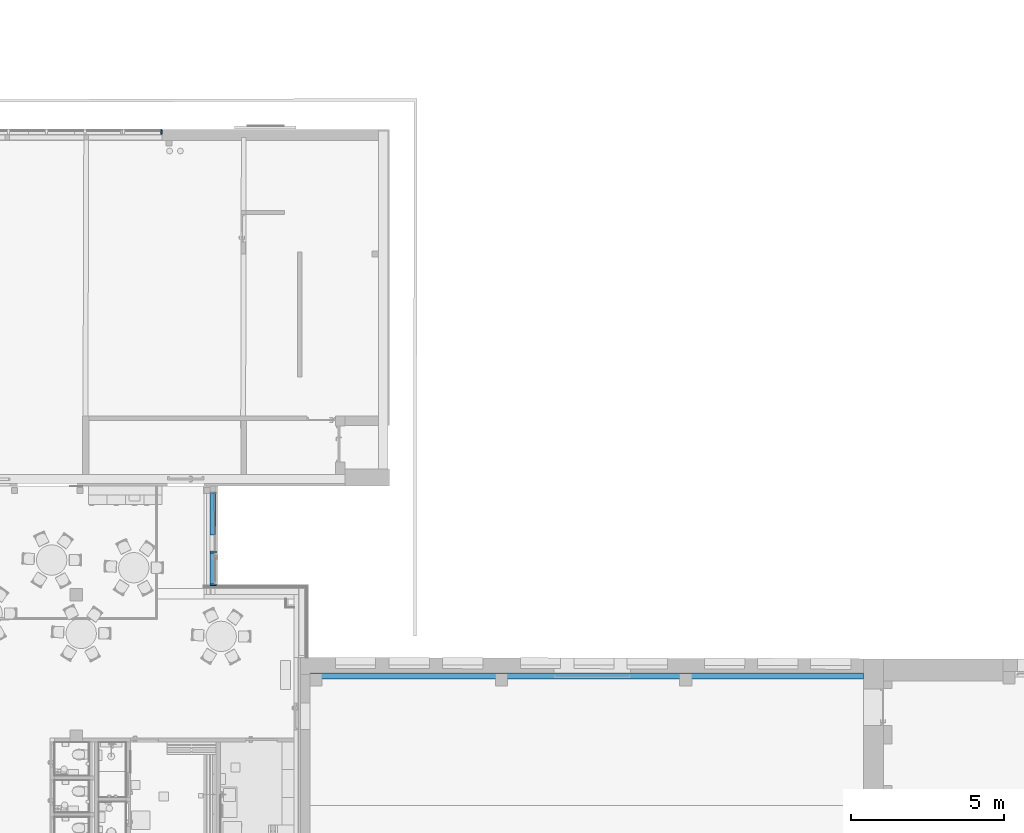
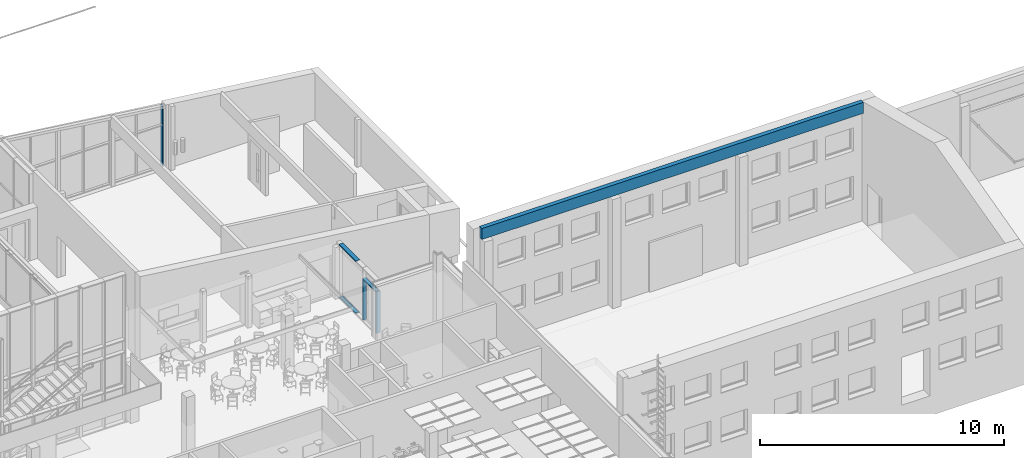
# One storey, part 63 of 301: 7 members, 1 beam, 2 elements without a shape of their own.
"""IFC2X3 building model written with IfcOpenShell, lengths in millimetres."""

from ifc_helpers import new_model, entity, si_unit, converted_unit, derived_unit, money_unit, direction, frame, origin_with_axes, place, context, subcontext, project, spatial, faceted_brep, material, type_object, element, aggregate, save


model = new_model("IFC2X3")

# Units and contexts
model_context = context("Model", 3, precision=0.01, world=origin_with_axes(), true_north=direction((0.0, 1.0)))
body_context = subcontext(model_context, "Body", "Model", "MODEL_VIEW")
ifc_project = project(units=[si_unit("LENGTHUNIT", "METRE", prefix="MILLI"), si_unit("AREAUNIT", "SQUARE_METRE"), si_unit("VOLUMEUNIT", "CUBIC_METRE"), converted_unit("PLANEANGLEUNIT", "DEGREE", entity("IfcPlaneAngleMeasure", 0.0174532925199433), si_unit("PLANEANGLEUNIT", "RADIAN"), dimensions=[0, 0, 0, 0, 0, 0, 0]), money_unit("EUR"), converted_unit("TIMEUNIT", "Year", entity("IfcTimeMeasure", 31557600.0), si_unit("TIMEUNIT", "SECOND"), dimensions=[0, 0, 1, 0, 0, 0, 0]), si_unit("MASSUNIT", "GRAM", prefix="KILO"), si_unit("THERMODYNAMICTEMPERATUREUNIT", "DEGREE_CELSIUS"), si_unit("LUMINOUSINTENSITYUNIT", "LUMEN"), si_unit("ENERGYUNIT", "JOULE", prefix="MEGA"), derived_unit("THERMALCONDUCTANCEUNIT", [(si_unit("POWERUNIT", "WATT"), 1), (si_unit("LENGTHUNIT", "METRE"), -1), (si_unit("THERMODYNAMICTEMPERATUREUNIT", "KELVIN"), -1)]), derived_unit("SPECIFICHEATCAPACITYUNIT", [(si_unit("ENERGYUNIT", "JOULE"), 1), (si_unit("MASSUNIT", "GRAM", prefix="KILO"), -1), (si_unit("THERMODYNAMICTEMPERATUREUNIT", "KELVIN"), -1)]), derived_unit("MASSDENSITYUNIT", [(si_unit("MASSUNIT", "GRAM", prefix="KILO"), 1), (si_unit("VOLUMEUNIT", "CUBIC_METRE"), -1)])], contexts=[model_context])

# Site, building, storey
site_placement = place(None, frame((0.0, 0.0, 8650.0), z_axis=(0.0, 0.0, 1.0), x_axis=(1.0, 0.0, 0.0)))
site = spatial("IfcSite", under=ifc_project, at=site_placement, Name="43301:001:0844", CompositionType="ELEMENT")
building_placement = place(site_placement, origin_with_axes())
building = spatial("IfcBuilding", under=site, at=building_placement, Name="Kuressaare Ametikooli tuulikute mehaanikute õppekorpus", CompositionType="ELEMENT")
storey_placement = place(building_placement, origin_with_axes())
storey = spatial("IfcBuildingStorey", under=building, at=storey_placement, Name="1.korrus", CompositionType="ELEMENT", Elevation=0.0)

# Curtain wall, members
curtain_wall_type = type_object("IfcCurtainWallType", Name="Curtain Wall Type", PredefinedType="NOTDEFINED")
curtain_wall_1_placement = place(storey_placement, frame((130440.0312746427, 29344.34887802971, 34.99990943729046), z_axis=(0.0, 0.0, 1.0), x_axis=(1.0, 0.0, 0.0)))
curtain_wall_1 = element("IfcCurtainWall", 1, at=curtain_wall_1_placement, inside=storey, type_object=curtain_wall_type, Name="KF-2")
ifc_material_1 = material(Name="Aluminium")
member_type_1 = type_object("IfcMemberType", Name="Boundary Frame 50 x 200", PredefinedType="NOTDEFINED")
member_1_placement = place(curtain_wall_1_placement, frame((-3.539112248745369, 2359.808358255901, 0.0), z_axis=(0.00149974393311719, -0.9999988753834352, 0.0), x_axis=(0.0, 0.0, 1.0)))
member_1 = element("IfcMember", 2, at=member_1_placement, type_object=member_type_1, material=ifc_material_1, context=body_context, shape_type="Brep", body=[
    faceted_brep([(5.000000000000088, 20.0000000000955, 1365.273130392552), (25.00000000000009, 20.0000000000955, 1365.273130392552), (25.00000000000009, 160.0000000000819, 1365.273130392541), (-24.9999999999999, 160.0000000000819, 1365.273130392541), (-24.99999999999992, -39.9999999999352, 1365.273130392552), (25.00000000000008, -39.9999999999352, 1365.273130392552), (25.00000000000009, -19.99999999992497, 1365.273130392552), (5.000000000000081, -19.99999999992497, 1365.273130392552), (5.000000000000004, 20.00000000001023, 4.999999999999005), (25.0, 20.00000000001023, 24.99999999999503), (25.00000000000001, 159.9999999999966, 24.99999999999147), (-24.99999999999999, 159.9999999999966, -25.00000000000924), (-25.0, -39.99999999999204, -24.99999999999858), (24.99999999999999, -39.99999999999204, 25.00000000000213), (25.0, -20.00000000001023, 24.99999999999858), (4.999999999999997, -19.99999999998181, 5.000000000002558)], [[[0, 1, 2, 3, 4, 5, 6, 7]], [[0, 8, 9, 1]], [[9, 10, 2, 1]], [[2, 10, 11, 3]], [[3, 11, 12, 4]], [[4, 12, 13, 5]], [[6, 5, 13, 14]], [[14, 15, 7, 6]], [[7, 15, 8, 0]], [[8, 15, 14, 13, 12, 11, 10, 9]]]),
])
member_2_placement = place(curtain_wall_1_placement, frame((-1.491552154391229, 994.53676327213, 2610.000036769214), z_axis=(-0.00149974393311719, 0.9999988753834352, 0.0), x_axis=(0.0, 0.0, -1.0)))
member_2 = element("IfcMember", 3, at=member_2_placement, type_object=member_type_1, material=ifc_material_1, context=body_context, shape_type="Brep", body=[
    faceted_brep([(4.999999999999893, 19.99999999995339, 1360.27313039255), (24.99999999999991, 19.99999999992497, 1340.273130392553), (24.99999999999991, 159.9999999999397, 1340.273130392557), (-24.99999999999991, 159.9999999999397, 1390.273130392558), (-24.99999999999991, -40.00000000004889, 1390.273130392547), (24.99999999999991, -40.00000000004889, 1340.273130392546), (24.99999999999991, -20.00000000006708, 1340.27313039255), (4.999999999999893, -20.00000000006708, 1360.273130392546), (4.999999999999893, 20.00000000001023, 0.0), (24.99999999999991, 20.00000000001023, 0.0), (24.99999999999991, 160.000000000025, 0.0), (-24.99999999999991, 160.000000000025, 0.0), (-24.99999999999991, -39.99999999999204, 0.0), (24.99999999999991, -39.99999999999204, 0.0), (24.99999999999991, -19.99999999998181, 0.0), (4.999999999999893, -19.99999999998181, 0.0)], [[[0, 1, 2, 3, 4, 5, 6, 7]], [[0, 8, 9, 1]], [[9, 10, 2, 1]], [[10, 11, 3, 2]], [[11, 12, 4, 3]], [[12, 13, 5, 4]], [[6, 5, 13, 14]], [[14, 15, 7, 6]], [[7, 15, 8, 0]], [[8, 15, 14, 13, 12, 11, 10, 9]]]),
])
member_3_placement = place(curtain_wall_1_placement, frame((0.9667074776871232, -644.5809642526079, 0.0), z_axis=(0.0, -2.473938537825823e-10, 1.0), x_axis=(-0.001499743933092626, 0.9999988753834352, 2.473941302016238e-10)))
member_3 = element("IfcMember", 4, at=member_3_placement, type_object=member_type_1, material=ifc_material_1, context=body_context, shape_type="Brep", body=[
    faceted_brep([(5.000000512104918, 19.99999999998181, 2070.000044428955), (25.00000050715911, 19.99999999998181, 2050.00004441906), (25.00000050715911, 159.9999999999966, 2050.00004441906), (5.133422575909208e-07, 159.9999999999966, 2075.000044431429), (5.133458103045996e-07, -40.00000000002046, 2075.000044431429), (25.00000050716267, -40.00000000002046, 2050.00004441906), (25.00000050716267, -20.00000000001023, 2050.00004441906), (5.000000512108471, -19.99999999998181, 2070.000044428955), (4.999999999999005, 19.99999999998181, -1.236948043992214e-09), (24.99999999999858, 19.99999999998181, -6.184830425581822e-09), (24.99999999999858, 159.9999999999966, -6.184656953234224e-09), (-24.99999948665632, 159.9999999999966, 2075.000044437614), (-24.99999999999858, 159.9999999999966, 6.185045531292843e-09), (-24.99999948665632, -40.00000000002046, 2075.000044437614), (24.99999999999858, -40.00000000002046, -6.184899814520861e-09), (-24.99999999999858, -40.00000000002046, 6.18480960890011e-09), (25.00000000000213, -20.00000000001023, -6.184878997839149e-09), (5.000000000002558, -19.99999999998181, -1.236996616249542e-09)], [[[0, 1, 2, 3, 4, 5, 6, 7]], [[0, 8, 9, 1]], [[9, 10, 2, 1]], [[11, 3, 2, 10, 12]], [[4, 3, 11, 13]], [[14, 5, 4, 13, 15]], [[6, 5, 14, 16]], [[16, 17, 7, 6]], [[7, 17, 8, 0]], [[8, 17, 16, 14, 15, 12, 10, 9]], [[11, 12, 15, 13]]]),
])
member_4_placement = place(curtain_wall_1_placement, frame((0.9667074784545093, -644.5809647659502, 2075.000044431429), z_axis=(-0.001499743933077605, 0.9999988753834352, 0.0), x_axis=(0.0, 0.0, -1.0)))
member_4 = element("IfcMember", 5, at=member_4_placement, type_object=member_type_1, material=ifc_material_1, context=body_context, shape_type="Brep", body=[
    faceted_brep([(-4.999999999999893, 19.99999999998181, 1099.302816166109), (-4.999999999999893, -20.00000000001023, 1099.302816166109), (-24.99999999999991, -20.00000000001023, 1099.302816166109), (-24.99999999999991, -40.00000000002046, 1099.302816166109), (24.99999999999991, -40.00000000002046, 1099.302816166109), (24.99999999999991, -20.00000000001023, 1099.302816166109), (4.999999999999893, -20.00000000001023, 1099.302816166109), (4.999999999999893, 19.99999999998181, 1099.302816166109), (24.99999999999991, 19.99999999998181, 1099.302816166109), (24.99999999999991, 159.9999999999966, 1099.302816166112), (-24.99999999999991, 159.9999999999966, 1099.302816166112), (-24.99999999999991, 19.99999999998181, 1099.302816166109), (-4.999999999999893, 19.99999999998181, 4.999999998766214), (-4.999999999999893, -19.99999999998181, 4.999999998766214), (-24.99999999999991, -20.00000000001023, 24.99999999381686), (-24.99999999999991, -40.00000000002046, 24.9999999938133), (24.99999999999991, -39.99999999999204, 25.00000000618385), (0.0, -39.99999999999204, 0.0), (24.99999999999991, -19.99999999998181, 25.00000000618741), (4.999999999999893, -19.99999999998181, 5.000000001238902), (4.999999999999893, 19.99999999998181, 5.000000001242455), (24.99999999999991, 19.99999999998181, 25.00000000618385), (24.99999999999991, 159.9999999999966, 25.00000000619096), (-24.99999999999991, 159.9999999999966, 24.99999999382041), (0.0, 159.9999999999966, 0.0), (-24.99999999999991, 19.99999999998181, 24.9999999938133)], [[[0, 1, 2, 3, 4, 5, 6, 7, 8, 9, 10, 11]], [[0, 12, 13, 1]], [[1, 13, 14, 2]], [[14, 15, 3, 2]], [[16, 4, 3, 15, 17]], [[18, 5, 4, 16]], [[5, 18, 19, 6]], [[7, 6, 19, 20]], [[8, 7, 20, 21]], [[8, 21, 22, 9]], [[23, 10, 9, 22, 24]], [[11, 10, 23, 25]], [[11, 25, 12, 0]], [[13, 12, 25, 23, 24, 17, 15, 14]], [[16, 17, 24, 22, 21, 20, 19, 18]]]),
])
member_type_2 = type_object("IfcMemberType", Name="Mullion Frame 50 x 200", PredefinedType="NOTDEFINED")
member_5_placement = place(curtain_wall_1_placement, frame((-0.6444716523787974, 429.7206432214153, 0.0), z_axis=(0.0, 0.0, 1.0), x_axis=(-0.001499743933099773, 0.9999988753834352, 0.0)))
member_5 = element("IfcMember", 6, at=member_5_placement, type_object=member_type_2, material=ifc_material_1, context=body_context, shape_type="Brep", body=[
    faceted_brep([(-5.000000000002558, 19.99999999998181, 2050.00004443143), (-4.999999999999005, -20.00000000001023, 2050.00004443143), (-24.99999999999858, -20.00000000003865, 2050.00004443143), (-24.99999999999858, -40.00000000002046, 2050.00004443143), (24.99999999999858, -40.00000000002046, 2050.00004443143), (24.99999999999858, -20.00000000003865, 2050.00004443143), (5.000000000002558, -20.00000000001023, 2050.00004443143), (4.999999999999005, 20.00000000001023, 2050.00004443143), (24.99999999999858, 20.00000000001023, 2050.00004443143), (24.99999999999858, 159.9999999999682, 2050.00004443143), (-24.99999999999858, 159.9999999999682, 2050.00004443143), (-25.00000000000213, 20.00000000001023, 2050.00004443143), (-5.000000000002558, 19.99999999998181, 24.99999999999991), (-4.999999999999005, -20.00000000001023, 24.99999999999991), (-24.99999999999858, -20.00000000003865, 24.99999999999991), (-24.99999999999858, -40.00000000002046, 24.99999999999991), (24.99999999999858, -40.00000000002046, 24.99999999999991), (24.99999999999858, -20.00000000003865, 24.99999999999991), (5.000000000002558, -20.00000000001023, 24.99999999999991), (4.999999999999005, 20.00000000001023, 24.99999999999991), (24.99999999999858, 20.00000000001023, 24.99999999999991), (24.99999999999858, 159.9999999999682, 24.99999999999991), (-24.99999999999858, 159.9999999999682, 24.99999999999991), (-25.00000000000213, 20.00000000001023, 24.99999999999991)], [[[0, 1, 2, 3, 4, 5, 6, 7, 8, 9, 10, 11]], [[0, 12, 13, 1]], [[1, 13, 14, 2]], [[14, 15, 3, 2]], [[4, 3, 15, 16]], [[17, 5, 4, 16]], [[5, 17, 18, 6]], [[7, 6, 18, 19]], [[8, 7, 19, 20]], [[8, 20, 21, 9]], [[10, 9, 21, 22]], [[11, 10, 22, 23]], [[11, 23, 12, 0]], [[13, 12, 23, 22, 21, 20, 19, 18, 17, 16, 15, 14]]]),
])
aggregate(curtain_wall_1, [member_1, member_2, member_3, member_4, member_5])

curtain_wall_2_placement = place(storey_placement, frame((123006.726034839, 43517.8284534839, -3.991420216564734e-05), z_axis=(0.0, 0.0, 1.0), x_axis=(1.0, 0.0, 0.0)))
curtain_wall_2 = element("IfcCurtainWall", 7, at=curtain_wall_2_placement, inside=storey, type_object=curtain_wall_type, Name="KF-XX")
ifc_material_2 = material(Name="Metall - Alumiinium")
member_type_3 = type_object("IfcMemberType", Name="Boundary Frame 50 x 150", PredefinedType="NOTDEFINED")
member_6_placement = place(curtain_wall_2_placement, frame((5709.642149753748, 0.0, 3121.616442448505), z_axis=(-2.928159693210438e-08, 0.0, -0.9999999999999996), x_axis=(-0.9999999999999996, 0.0, 2.928159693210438e-08)))
member_6 = element("IfcMember", 8, at=member_6_placement, type_object=member_type_3, material=ifc_material_2, context=body_context, shape_type="Brep", body=[
    faceted_brep([(34.99997008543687, -9.99999999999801, 1021.6164042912), (34.99997008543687, 9.99999999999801, 1021.6164042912), (49.99997008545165, 9.99999999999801, 1021.616404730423), (49.99997008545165, 30.00000000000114, 1021.616404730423), (-2.991455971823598e-05, 30.00000000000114, 1021.616403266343), (-2.991455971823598e-05, 0.0, 1021.616403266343), (-2.991455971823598e-05, -119.9999999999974, 1021.616403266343), (49.99997008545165, -119.9999999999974, 1021.616404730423), (49.99997008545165, -9.99999999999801, 1021.616404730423), (34.99999909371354, -9.99999999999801, 30.9498730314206), (34.99999909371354, 9.99999999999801, 30.9498730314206), (49.99999870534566, 9.99999999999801, 44.2141043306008), (49.99999870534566, 30.00000000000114, 44.2141043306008), (0.0, 30.00000000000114, 0.0), (0.0, 0.0, 0.0), (0.0, -119.9999999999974, 0.0), (49.99999870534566, -119.9999999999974, 44.2141043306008), (49.99999870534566, -9.99999999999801, 44.2141043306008)], [[[0, 1, 2, 3, 4, 5, 6, 7, 8]], [[1, 0, 9, 10]], [[11, 2, 1, 10]], [[2, 11, 12, 3]], [[4, 3, 12, 13]], [[5, 4, 13, 14]], [[6, 5, 14, 15]], [[7, 6, 15, 16]], [[17, 8, 7, 16]], [[0, 8, 17, 9]], [[9, 17, 16, 15, 14, 13, 12, 11, 10]]]),
])
member_7_placement = place(curtain_wall_2_placement, frame((5709.642119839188, 0.0, 2100.000039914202), z_axis=(0.0, 0.0, -1.0), x_axis=(-1.0, 0.0, 0.0)))
member_7 = element("IfcMember", 9, at=member_7_placement, type_object=member_type_3, material=ifc_material_2, context=body_context, shape_type="Brep", body=[
    faceted_brep([(34.99999999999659, -9.99999999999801, 2065.000039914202), (34.99999999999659, 9.99999999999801, 2065.000039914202), (50.00000000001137, 9.99999999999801, 2050.000039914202), (50.00000000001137, 30.00000000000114, 2050.000039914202), (0.0, 30.00000000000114, 2100.000039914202), (0.0, 0.0, 2100.000039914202), (0.0, -119.9999999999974, 2100.000039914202), (50.00000000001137, -119.9999999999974, 2050.000039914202), (50.00000000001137, -9.99999999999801, 2050.000039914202), (34.99999999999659, -9.99999999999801, -7.320397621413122e-07), (34.99999999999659, 9.99999999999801, -7.320397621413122e-07), (50.00000000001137, 9.99999999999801, -7.320397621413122e-07), (50.00000000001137, 30.00000000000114, -7.320397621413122e-07), (0.0, 30.00000000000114, -7.320397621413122e-07), (0.0, 0.0, -7.320397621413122e-07), (0.0, -119.9999999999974, -7.320397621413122e-07), (50.00000000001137, -119.9999999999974, -7.320397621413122e-07), (50.00000000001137, -9.99999999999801, -7.320397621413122e-07)], [[[0, 1, 2, 3, 4, 5, 6, 7, 8]], [[1, 0, 9, 10]], [[11, 2, 1, 10]], [[2, 11, 12, 3]], [[13, 4, 3, 12]], [[14, 5, 4, 13]], [[15, 6, 5, 14]], [[16, 7, 6, 15]], [[17, 8, 7, 16]], [[0, 8, 17, 9]], [[9, 17, 16, 15, 14, 13, 12, 11, 10]]]),
])
aggregate(curtain_wall_2, [member_6, member_7])

# Beam
ifc_material_3 = material(Name="GENEERILINE - KONSTRUKTRIOON")
beam_type = type_object("IfcBeamType", Name="GENEERILINE - KONSTRUKTRIOON 200 x 550", PredefinedType="NOTDEFINED")
beam_placement = place(storey_placement, frame((133534.948321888, 25832.98866271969, 5450.0), z_axis=(0.0, 0.0, 1.0), x_axis=(0.0, -1.0, 0.0)))
element("IfcBeam", 10, at=beam_placement, inside=storey, type_object=beam_type, material=ifc_material_3, context=body_context, shape_type="Brep", body=[
    faceted_brep([(0.0, 0.0, 0.0), (0.0, 18058.67197840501, 0.0), (199.9999999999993, 18058.67197840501, 0.0), (199.9999999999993, 0.0, 0.0), (0.0, 0.0, 549.9999999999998), (0.0, 18058.67197840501, 549.9999999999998), (199.9999999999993, 18058.67197840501, 549.9999999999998), (199.9999999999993, 0.0, 549.9999999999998)], [[[0, 1, 2, 3]], [[4, 5, 1, 0]], [[2, 1, 5, 6]], [[3, 2, 6, 7]], [[4, 0, 3, 7]], [[7, 6, 5, 4]]]),
])

save(model, "model.ifc")
